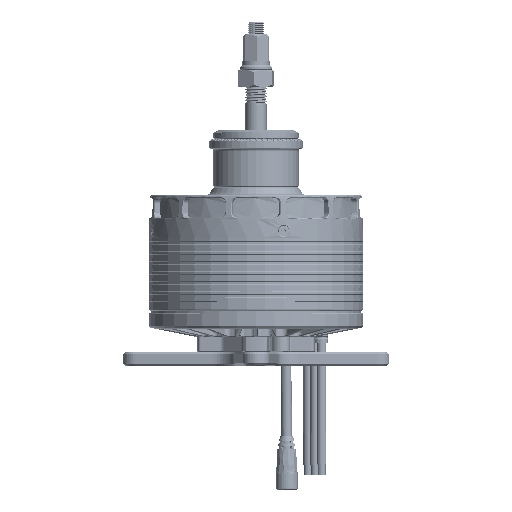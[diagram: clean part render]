
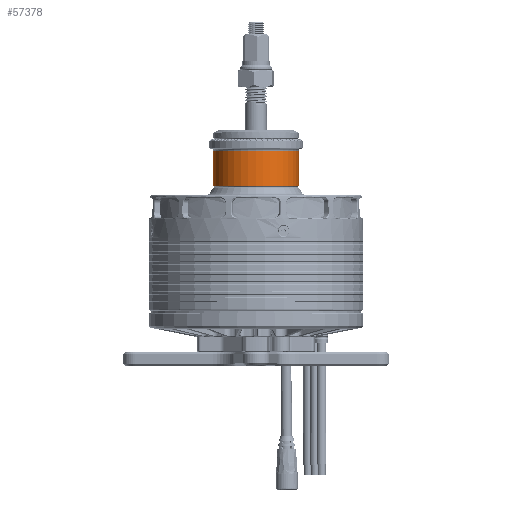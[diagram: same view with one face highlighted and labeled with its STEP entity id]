
A CAD part, top view. The second image highlights one B-rep face of the part: STEP entity #57378.
In plain terms, the highlighted cylindrical face has radius 16 mm (diameter 32 mm), a partial arc.
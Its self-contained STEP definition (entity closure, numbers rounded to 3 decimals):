
#803 = VERTEX_POINT ( 'NONE', #20810 ) ;
#4906 = AXIS2_PLACEMENT_3D ( 'NONE', #56045, #85631, #15328 ) ;
#8076 = VERTEX_POINT ( 'NONE', #147118 ) ;
#15328 = DIRECTION ( 'NONE',  ( 0., 0., 1. ) ) ;
#20810 = CARTESIAN_POINT ( 'NONE',  ( 0., 13.5, 16. ) ) ;
#27395 = FACE_OUTER_BOUND ( 'NONE', #142432, .T. ) ;
#40109 = VECTOR ( 'NONE', #75277, 1000. ) ;
#47532 = LINE ( 'NONE', #142903, #40109 ) ;
#51120 = AXIS2_PLACEMENT_3D ( 'NONE', #72858, #71949, #129287 ) ;
#56045 = CARTESIAN_POINT ( 'NONE',  ( 0., 41.25, 0. ) ) ;
#57378 = ADVANCED_FACE ( 'NONE', ( #27395 ), #84721, .T. ) ;
#70694 = VECTOR ( 'NONE', #77684, 1000. ) ;
#71949 = DIRECTION ( 'NONE',  ( 0., 1., 0. ) ) ;
#72858 = CARTESIAN_POINT ( 'NONE',  ( 0., 0.3, 0. ) ) ;
#75277 = DIRECTION ( 'NONE',  ( 0., 1., 0. ) ) ;
#76767 = LINE ( 'NONE', #122064, #70694 ) ;
#76964 = EDGE_CURVE ( 'NONE', #803, #157207, #127754, .T. ) ;
#77684 = DIRECTION ( 'NONE',  ( 0., 1., 0. ) ) ;
#80756 = ORIENTED_EDGE ( 'NONE', *, *, #143716, .F. ) ;
#83281 = DIRECTION ( 'NONE',  ( 0., -1., 0. ) ) ;
#84721 = CYLINDRICAL_SURFACE ( 'NONE', #4906, 16. ) ;
#85631 = DIRECTION ( 'NONE',  ( 0., 1., 0. ) ) ;
#97149 = CARTESIAN_POINT ( 'NONE',  ( 0., 13.5, 0. ) ) ;
#99419 = VERTEX_POINT ( 'NONE', #178053 ) ;
#99861 = DIRECTION ( 'NONE',  ( 0., 0., 1. ) ) ;
#106447 = ORIENTED_EDGE ( 'NONE', *, *, #76964, .T. ) ;
#114074 = EDGE_CURVE ( 'NONE', #99419, #803, #47532, .T. ) ;
#121920 = CIRCLE ( 'NONE', #51120, 16. ) ;
#122064 = CARTESIAN_POINT ( 'NONE',  ( 0., 41.25, -16. ) ) ;
#127754 = CIRCLE ( 'NONE', #145495, 16. ) ;
#129287 = DIRECTION ( 'NONE',  ( 0., 0., 1. ) ) ;
#131735 = ORIENTED_EDGE ( 'NONE', *, *, #114074, .T. ) ;
#142432 = EDGE_LOOP ( 'NONE', ( #80756, #177304, #131735, #106447 ) ) ;
#142903 = CARTESIAN_POINT ( 'NONE',  ( 0., 41.25, 16. ) ) ;
#143716 = EDGE_CURVE ( 'NONE', #8076, #157207, #76767, .T. ) ;
#145495 = AXIS2_PLACEMENT_3D ( 'NONE', #97149, #83281, #99861 ) ;
#147118 = CARTESIAN_POINT ( 'NONE',  ( 0., 0.3, -16. ) ) ;
#148864 = CARTESIAN_POINT ( 'NONE',  ( 0., 13.5, -16. ) ) ;
#151547 = EDGE_CURVE ( 'NONE', #8076, #99419, #121920, .T. ) ;
#157207 = VERTEX_POINT ( 'NONE', #148864 ) ;
#177304 = ORIENTED_EDGE ( 'NONE', *, *, #151547, .T. ) ;
#178053 = CARTESIAN_POINT ( 'NONE',  ( 0., 0.3, 16. ) ) ;
